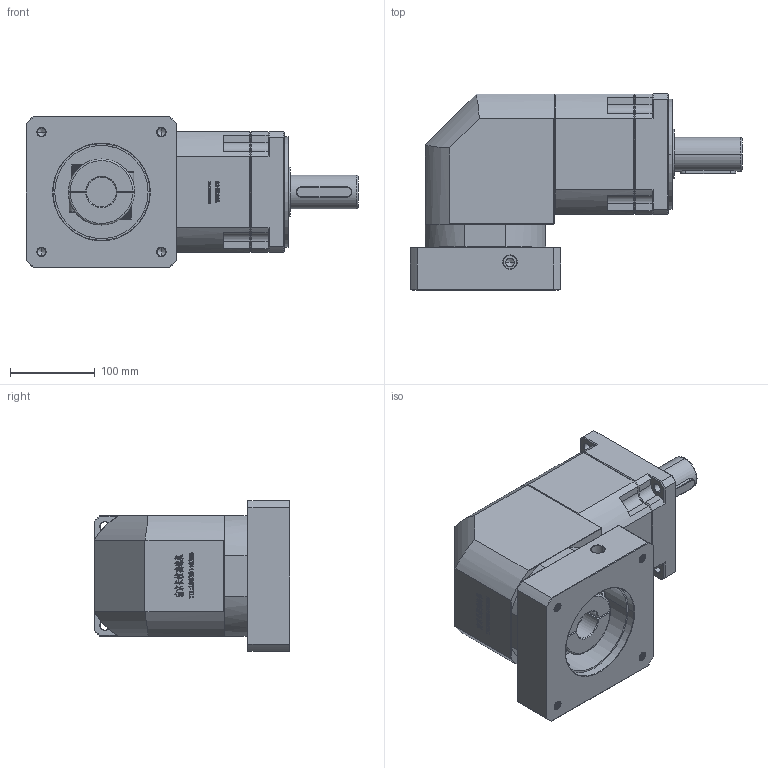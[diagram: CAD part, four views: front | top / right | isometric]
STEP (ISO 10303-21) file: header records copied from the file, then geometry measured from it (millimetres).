
FILE_DESCRIPTION (( 'STEP AP214' ), '1' );
FILE_NAME ('ZBR142A-D40-L2-35-114.3-200-M12.step', '2023-03-18T09:22:59', ( '' ), ( '' ), 'SwSTEP 2.0', 'SolidWorks 2016', '' );
FILE_SCHEMA (( 'AUTOMOTIVE_DESIGN' ));
Length unit declared in the file: millimetre
Products named in the file (1): ZBR142A-D40-L2-35-114.3-200-M12
Bounding box: 391.7 x 231 x 178 mm (x, y, z)
Volume: 6734687.2 mm3; surface area: 446808.3 mm2
Topology: 6 solids, 6 shells, 2900 faces, 7741 edges, 4990 vertices
Faces by surface type: plane 1540, bspline 592, cylinder 414, cone 332, torus 22
Entity records: 162475 total; most frequent: CARTESIAN_POINT 62877, ORIENTED_EDGE 15422, DIRECTION 11684, EDGE_CURVE 7711, VECTOR 5214, LINE 5214, VERTEX_POINT 4990, AXIS2_PLACEMENT_3D 3235
